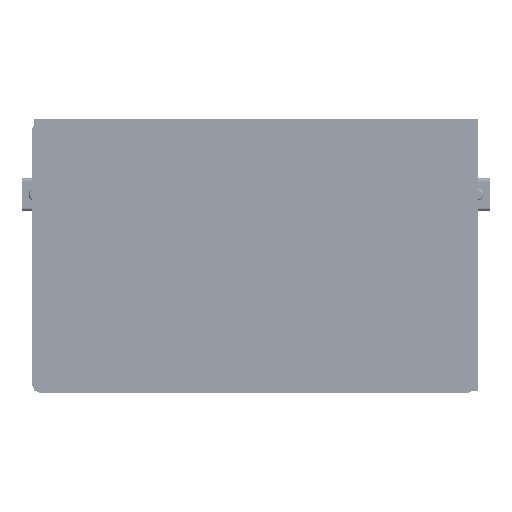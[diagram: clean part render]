
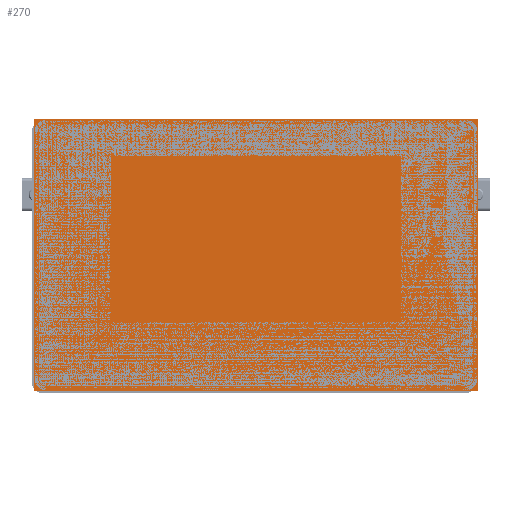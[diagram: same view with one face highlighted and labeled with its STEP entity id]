
A CAD part, top view. The second image highlights one B-rep face of the part: STEP entity #270.
In plain terms, the highlighted planar face has unit normal (0, 0, 1).
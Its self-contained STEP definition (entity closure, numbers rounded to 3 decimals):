
#101=DIRECTION('',(0.,-1.,0.));
#102=VECTOR('',#101,90.);
#103=CARTESIAN_POINT('',(-73.5,45.,2.85));
#104=LINE('',#103,#102);
#105=DIRECTION('',(-1.,0.,0.));
#106=VECTOR('',#105,147.);
#107=CARTESIAN_POINT('',(73.5,45.,2.85));
#108=LINE('',#107,#106);
#109=DIRECTION('',(0.,1.,0.));
#110=VECTOR('',#109,90.);
#111=CARTESIAN_POINT('',(73.5,-45.,2.85));
#112=LINE('',#111,#110);
#113=DIRECTION('',(1.,0.,0.));
#114=VECTOR('',#113,147.);
#115=CARTESIAN_POINT('',(-73.5,-45.,2.85));
#116=LINE('',#115,#114);
#161=CARTESIAN_POINT('',(-73.5,45.,2.85));
#162=CARTESIAN_POINT('',(-73.5,-45.,2.85));
#163=VERTEX_POINT('',#161);
#164=VERTEX_POINT('',#162);
#165=CARTESIAN_POINT('',(73.5,-45.,2.85));
#166=VERTEX_POINT('',#165);
#167=CARTESIAN_POINT('',(73.5,45.,2.85));
#168=VERTEX_POINT('',#167);
#256=CARTESIAN_POINT('',(0.,0.,2.85));
#257=DIRECTION('',(0.,0.,1.));
#258=DIRECTION('',(1.,0.,0.));
#259=AXIS2_PLACEMENT_3D('',#256,#257,#258);
#260=PLANE('',#259);
#261=ORIENTED_EDGE('',*,*,#246,.F.);
#263=ORIENTED_EDGE('',*,*,#262,.F.);
#265=ORIENTED_EDGE('',*,*,#264,.F.);
#267=ORIENTED_EDGE('',*,*,#266,.F.);
#268=EDGE_LOOP('',(#261,#263,#265,#267));
#269=FACE_OUTER_BOUND('',#268,.F.);
#246=EDGE_CURVE('',#163,#164,#104,.T.);
#262=EDGE_CURVE('',#168,#163,#108,.T.);
#264=EDGE_CURVE('',#166,#168,#112,.T.);
#266=EDGE_CURVE('',#164,#166,#116,.T.);
#270=ADVANCED_FACE('',(#269),#260,.T.);
